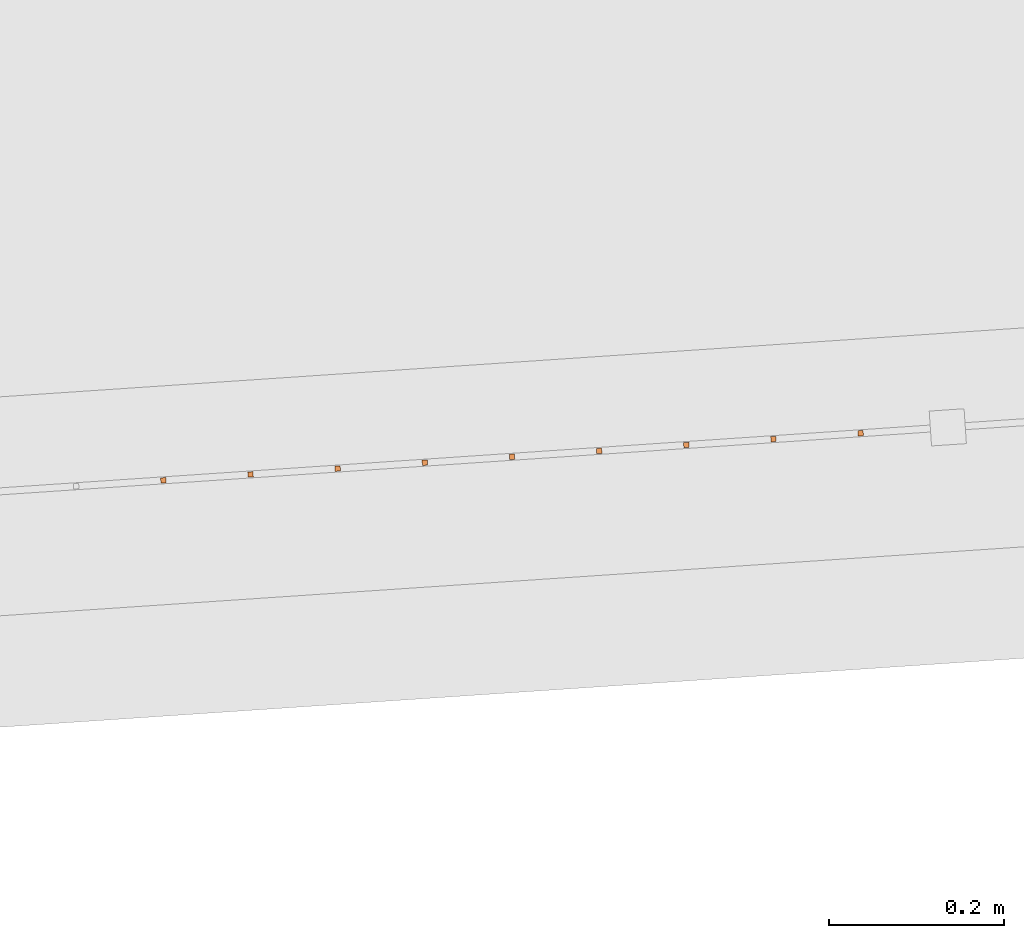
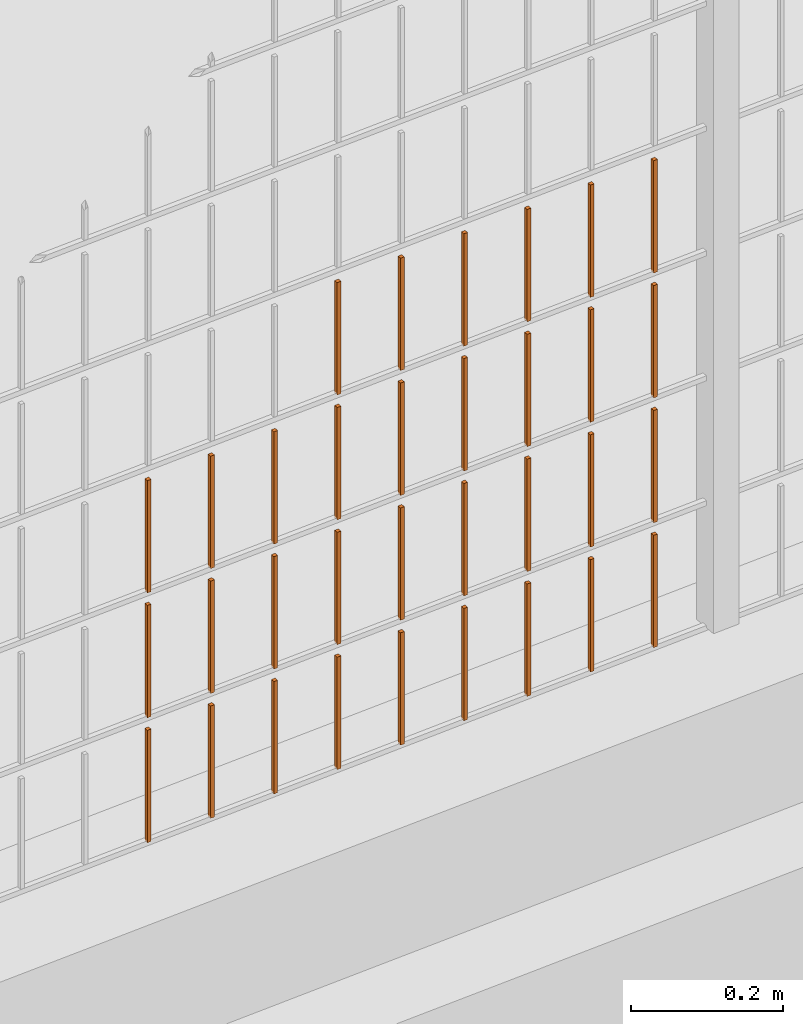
# One storey, part 289 of 1809: 33 proxies, 1 element without a shape of its own.
"""IFC2X3 building model written with IfcOpenShell, lengths in millimetres."""

from ifc_helpers import new_model, entity, si_unit, converted_unit, derived_unit, money_unit, direction, frame, origin_with_axes, place, context, subcontext, project, spatial, faceted_brep, source, transform, mapped, material, type_object, element, aggregate, save


model = new_model("IFC2X3")

# Units and contexts
model_context = context("Model", 3, precision=0.01, world=origin_with_axes(), true_north=direction((0.0, 1.0)))
body_context = subcontext(model_context, "Body", "Model", "MODEL_VIEW")
ifc_project = project(units=[si_unit("LENGTHUNIT", "METRE", prefix="MILLI"), si_unit("AREAUNIT", "SQUARE_METRE"), si_unit("VOLUMEUNIT", "CUBIC_METRE"), converted_unit("PLANEANGLEUNIT", "DEGREE", entity("IfcPlaneAngleMeasure", 0.0174532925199), si_unit("PLANEANGLEUNIT", "RADIAN"), dimensions=[0, 0, 0, 0, 0, 0, 0]), si_unit("SOLIDANGLEUNIT", "STERADIAN"), money_unit("EUR"), converted_unit("TIMEUNIT", "Year", entity("IfcTimeMeasure", 31556926.0), si_unit("TIMEUNIT", "SECOND"), dimensions=[0, 0, 1, 0, 0, 0, 0]), si_unit("MASSUNIT", "GRAM", prefix="KILO"), si_unit("THERMODYNAMICTEMPERATUREUNIT", "DEGREE_CELSIUS"), si_unit("LUMINOUSINTENSITYUNIT", "LUMEN"), si_unit("ENERGYUNIT", "JOULE", prefix="MEGA"), derived_unit("THERMALCONDUCTANCEUNIT", [(si_unit("POWERUNIT", "WATT"), 1), (si_unit("LENGTHUNIT", "METRE"), -1), (si_unit("THERMODYNAMICTEMPERATUREUNIT", "KELVIN"), -1)]), derived_unit("SPECIFICHEATCAPACITYUNIT", [(si_unit("ENERGYUNIT", "JOULE"), 1), (si_unit("MASSUNIT", "GRAM", prefix="KILO"), -1), (si_unit("THERMODYNAMICTEMPERATUREUNIT", "KELVIN"), -1)]), derived_unit("MASSDENSITYUNIT", [(si_unit("MASSUNIT", "GRAM", prefix="KILO"), 1), (si_unit("VOLUMEUNIT", "CUBIC_METRE"), -1)])], contexts=[model_context])

# Site, building, storey
site_placement = place(None, origin_with_axes())
site = spatial("IfcSite", under=ifc_project, at=site_placement, Name="Politse- ja Piirivalveameti ning Päästeameti ühishoone", CompositionType="ELEMENT")
building_placement = place(site_placement, origin_with_axes())
building = spatial("IfcBuilding", under=site, at=building_placement, Name="Politse- ja Piirivalveameti ning Päästeameti ühishoone", CompositionType="ELEMENT")
storey_placement = place(building_placement, origin_with_axes())
storey = spatial("IfcBuildingStorey", under=building, at=storey_placement, Name="Esimene korrus", CompositionType="ELEMENT", Elevation=0.0)

# Proxies
building_element_proxy_type_1 = type_object("IfcBuildingElementProxyType", Name="Railing Type", PredefinedType="NOTDEFINED")
proxy_1_placement = place(storey_placement, frame((89252.001212, -29183.4766571, 203.661247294), z_axis=(0.0, 0.0, 1.0), x_axis=(1.0, 0.0, 0.0)))
proxy_1 = element("IfcBuildingElementProxy", 1, at=proxy_1_placement, inside=storey, type_object=building_element_proxy_type_1, Name="PIIRDEAED")
ifc_material = material(Name="ET-03_Raud")
building_element_proxy_type_2 = type_object("IfcBuildingElementProxyType", Name="IfcBuildingElementProxy", PredefinedType="NOTDEFINED")
shared_shape_1 = source(origin_with_axes(), body_context, "Body", "Brep", [
    faceted_brep([(3.0, 3.0, -0.000752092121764), (-3.0, 3.0, -0.000752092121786), (-3.0, 3.0, 179.99926046), (3.0, 3.0, 179.99926046), (3.0, -3.0, 0.000752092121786), (-3.0, -3.0, 0.000752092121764), (-3.0, -3.0, 180.000764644), (3.0, -3.0, 180.000764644)], [[[0, 1, 2, 3]], [[0, 4, 5, 1]], [[1, 5, 6, 2]], [[3, 2, 6, 7]], [[4, 0, 3, 7]], [[5, 4, 7, 6]]]),
])
proxy_2_placement = place(proxy_1_placement, frame((-47318.8648282, -20493.9855058, 15.3446393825), z_axis=(0.0, 0.0, 1.0), x_axis=(1.0, 0.0, 0.0)))
proxy_2 = element("IfcBuildingElementProxy", 2, at=proxy_2_placement, type_object=building_element_proxy_type_2, material=ifc_material, Name="BALUSTER - 001", context=body_context, shape_type="MappedRepresentation", body=[
    mapped(shared_shape_1, transform((0.0, 0.0, 0.0), x_axis=(-0.0673926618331, 0.997726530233, 0.0), y_axis=(-0.997726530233, -0.0673926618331, 0.0), z_axis=(0.0, 0.0, 1.0))),
])
shared_shape_2 = source(origin_with_axes(), body_context, "Body", "Brep", [
    faceted_brep([(3.0, 3.0, -0.000752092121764), (-3.0, 3.0, -0.000752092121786), (-3.0, 3.0, 179.99926046), (3.0, 3.0, 179.99926046), (3.0, -3.0, 0.000752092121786), (-3.0, -3.0, 0.000752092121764), (-3.0, -3.0, 180.000764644), (3.0, -3.0, 180.000764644)], [[[0, 1, 2, 3]], [[0, 4, 5, 1]], [[1, 5, 6, 2]], [[3, 2, 6, 7]], [[4, 0, 3, 7]], [[5, 4, 7, 6]]]),
])
proxy_3_placement = place(proxy_1_placement, frame((-47418.6374813, -20500.724772, 15.3195696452), z_axis=(0.0, 0.0, 1.0), x_axis=(1.0, 0.0, 0.0)))
proxy_3 = element("IfcBuildingElementProxy", 3, at=proxy_3_placement, type_object=building_element_proxy_type_2, material=ifc_material, Name="BALUSTER - 001", context=body_context, shape_type="MappedRepresentation", body=[
    mapped(shared_shape_2, transform((0.0, 0.0, 0.0), x_axis=(-0.0673926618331, 0.997726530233, 0.0), y_axis=(-0.997726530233, -0.0673926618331, 0.0), z_axis=(0.0, 0.0, 1.0))),
])
shared_shape_3 = source(origin_with_axes(), body_context, "Body", "Brep", [
    faceted_brep([(3.0, 3.0, -0.000752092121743), (-3.0, 3.0, -0.000752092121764), (-3.0, 3.0, 179.99926046), (3.0, 3.0, 179.99926046), (3.0, -3.0, 0.000752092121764), (-3.0, -3.0, 0.000752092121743), (-3.0, -3.0, 180.000764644), (3.0, -3.0, 180.000764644)], [[[0, 1, 2, 3]], [[0, 4, 5, 1]], [[1, 5, 6, 2]], [[3, 2, 6, 7]], [[4, 0, 3, 7]], [[5, 4, 7, 6]]]),
])
proxy_4_placement = place(proxy_1_placement, frame((-47917.5007464, -20534.4211029, 215.194220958), z_axis=(0.0, 0.0, 1.0), x_axis=(1.0, 0.0, 0.0)))
proxy_4 = element("IfcBuildingElementProxy", 4, at=proxy_4_placement, type_object=building_element_proxy_type_2, material=ifc_material, Name="BALUSTER - 001", context=body_context, shape_type="MappedRepresentation", body=[
    mapped(shared_shape_3, transform((0.0, 0.0, 0.0), x_axis=(-0.0673926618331, 0.997726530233, 0.0), y_axis=(-0.997726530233, -0.0673926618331, 0.0), z_axis=(0.0, 0.0, 1.0))),
])
shared_shape_4 = source(origin_with_axes(), body_context, "Body", "Brep", [
    faceted_brep([(3.0, 3.0, -0.000752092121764), (-3.0, 3.0, -0.000752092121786), (-3.0, 3.0, 179.99926046), (3.0, 3.0, 179.99926046), (3.0, -3.0, 0.000752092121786), (-3.0, -3.0, 0.000752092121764), (-3.0, -3.0, 180.000764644), (3.0, -3.0, 180.000764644)], [[[0, 1, 2, 3]], [[0, 4, 5, 1]], [[1, 5, 6, 2]], [[3, 2, 6, 7]], [[4, 0, 3, 7]], [[5, 4, 7, 6]]]),
])
proxy_5_placement = place(proxy_1_placement, frame((-47318.8648282, -20493.9855058, 215.344639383), z_axis=(0.0, 0.0, 1.0), x_axis=(1.0, 0.0, 0.0)))
proxy_5 = element("IfcBuildingElementProxy", 5, at=proxy_5_placement, type_object=building_element_proxy_type_2, material=ifc_material, Name="BALUSTER - 001", context=body_context, shape_type="MappedRepresentation", body=[
    mapped(shared_shape_4, transform((0.0, 0.0, 0.0), x_axis=(-0.0673926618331, 0.997726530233, 0.0), y_axis=(-0.997726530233, -0.0673926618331, 0.0), z_axis=(0.0, 0.0, 1.0))),
])
proxy_6_placement = place(proxy_1_placement, frame((-47318.8648282, -20493.9855058, 415.344639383), z_axis=(0.0, 0.0, 1.0), x_axis=(1.0, 0.0, 0.0)))
proxy_6 = element("IfcBuildingElementProxy", 6, at=proxy_6_placement, type_object=building_element_proxy_type_2, material=ifc_material, Name="BALUSTER - 001", context=body_context, shape_type="MappedRepresentation", body=[
    mapped(shared_shape_4, transform((0.0, 0.0, 0.0), x_axis=(-0.0673926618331, 0.997726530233, 0.0), y_axis=(-0.997726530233, -0.0673926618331, 0.0), z_axis=(0.0, 0.0, 1.0))),
])
shared_shape_5 = source(origin_with_axes(), body_context, "Body", "Brep", [
    faceted_brep([(3.0, 3.0, -0.000752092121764), (-3.0, 3.0, -0.000752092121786), (-3.0, 3.0, 179.99926046), (3.0, 3.0, 179.99926046), (3.0, -3.0, 0.000752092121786), (-3.0, -3.0, 0.000752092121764), (-3.0, -3.0, 180.000764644), (3.0, -3.0, 180.000764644)], [[[0, 1, 2, 3]], [[0, 4, 5, 1]], [[1, 5, 6, 2]], [[3, 2, 6, 7]], [[4, 0, 3, 7]], [[5, 4, 7, 6]]]),
])
proxy_7_placement = place(proxy_1_placement, frame((-47418.6374813, -20500.724772, 415.319569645), z_axis=(0.0, 0.0, 1.0), x_axis=(1.0, 0.0, 0.0)))
proxy_7 = element("IfcBuildingElementProxy", 7, at=proxy_7_placement, type_object=building_element_proxy_type_2, material=ifc_material, Name="BALUSTER - 001", context=body_context, shape_type="MappedRepresentation", body=[
    mapped(shared_shape_5, transform((0.0, 0.0, 0.0), x_axis=(-0.0673926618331, 0.997726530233, 0.0), y_axis=(-0.997726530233, -0.0673926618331, 0.0), z_axis=(0.0, 0.0, 1.0))),
])
shared_shape_6 = source(origin_with_axes(), body_context, "Body", "Brep", [
    faceted_brep([(3.0, 3.0, -0.000752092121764), (-3.0, 3.0, -0.000752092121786), (-3.0, 3.0, 179.99926046), (3.0, 3.0, 179.99926046), (3.0, -3.0, 0.000752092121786), (-3.0, -3.0, 0.000752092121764), (-3.0, -3.0, 180.000764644), (3.0, -3.0, 180.000764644)], [[[0, 1, 2, 3]], [[0, 4, 5, 1]], [[1, 5, 6, 2]], [[3, 2, 6, 7]], [[4, 0, 3, 7]], [[5, 4, 7, 6]]]),
])
proxy_8_placement = place(proxy_1_placement, frame((-47318.8648282, -20493.9855058, 615.344639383), z_axis=(0.0, 0.0, 1.0), x_axis=(1.0, 0.0, 0.0)))
proxy_8 = element("IfcBuildingElementProxy", 8, at=proxy_8_placement, type_object=building_element_proxy_type_2, material=ifc_material, Name="BALUSTER - 001", context=body_context, shape_type="MappedRepresentation", body=[
    mapped(shared_shape_6, transform((0.0, 0.0, 0.0), x_axis=(-0.0673926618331, 0.997726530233, 0.0), y_axis=(-0.997726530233, -0.0673926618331, 0.0), z_axis=(0.0, 0.0, 1.0))),
])
shared_shape_7 = source(origin_with_axes(), body_context, "Body", "Brep", [
    faceted_brep([(3.0, 3.0, -0.000752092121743), (-3.0, 3.0, -0.000752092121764), (-3.0, 3.0, 179.99926046), (3.0, 3.0, 179.99926046), (3.0, -3.0, 0.000752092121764), (-3.0, -3.0, 0.000752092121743), (-3.0, -3.0, 180.000764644), (3.0, -3.0, 180.000764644)], [[[0, 1, 2, 3]], [[0, 4, 5, 1]], [[1, 5, 6, 2]], [[3, 2, 6, 7]], [[4, 0, 3, 7]], [[5, 4, 7, 6]]]),
])
proxy_9_placement = place(proxy_1_placement, frame((-47917.5007464, -20534.4211029, 15.1942209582), z_axis=(0.0, 0.0, 1.0), x_axis=(1.0, 0.0, 0.0)))
proxy_9 = element("IfcBuildingElementProxy", 9, at=proxy_9_placement, type_object=building_element_proxy_type_2, material=ifc_material, Name="BALUSTER - 001", context=body_context, shape_type="MappedRepresentation", body=[
    mapped(shared_shape_7, transform((0.0, 0.0, 0.0), x_axis=(-0.0673926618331, 0.997726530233, 0.0), y_axis=(-0.997726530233, -0.0673926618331, 0.0), z_axis=(0.0, 0.0, 1.0))),
])
shared_shape_8 = source(origin_with_axes(), body_context, "Body", "Brep", [
    faceted_brep([(3.0, 3.0, -0.000752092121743), (-3.0, 3.0, -0.000752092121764), (-3.0, 3.0, 179.99926046), (3.0, 3.0, 179.99926046), (3.0, -3.0, 0.000752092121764), (-3.0, -3.0, 0.000752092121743), (-3.0, -3.0, 180.000764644), (3.0, -3.0, 180.000764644)], [[[0, 1, 2, 3]], [[0, 4, 5, 1]], [[1, 5, 6, 2]], [[3, 2, 6, 7]], [[4, 0, 3, 7]], [[5, 4, 7, 6]]]),
])
proxy_10_placement = place(proxy_1_placement, frame((-47917.5007464, -20534.4211029, 415.194220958), z_axis=(0.0, 0.0, 1.0), x_axis=(1.0, 0.0, 0.0)))
proxy_10 = element("IfcBuildingElementProxy", 10, at=proxy_10_placement, type_object=building_element_proxy_type_2, material=ifc_material, Name="BALUSTER - 001", context=body_context, shape_type="MappedRepresentation", body=[
    mapped(shared_shape_8, transform((0.0, 0.0, 0.0), x_axis=(-0.0673926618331, 0.997726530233, 0.0), y_axis=(-0.997726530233, -0.0673926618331, 0.0), z_axis=(0.0, 0.0, 1.0))),
])
shared_shape_9 = source(origin_with_axes(), body_context, "Body", "Brep", [
    faceted_brep([(3.0, 3.0, -0.000752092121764), (-3.0, 3.0, -0.000752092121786), (-3.0, 3.0, 179.99926046), (3.0, 3.0, 179.99926046), (3.0, -3.0, 0.000752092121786), (-3.0, -3.0, 0.000752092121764), (-3.0, -3.0, 180.000764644), (3.0, -3.0, 180.000764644)], [[[0, 1, 2, 3]], [[0, 4, 5, 1]], [[1, 5, 6, 2]], [[3, 2, 6, 7]], [[4, 0, 3, 7]], [[5, 4, 7, 6]]]),
])
proxy_11_placement = place(proxy_1_placement, frame((-47418.6374813, -20500.724772, 215.319569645), z_axis=(0.0, 0.0, 1.0), x_axis=(1.0, 0.0, 0.0)))
proxy_11 = element("IfcBuildingElementProxy", 11, at=proxy_11_placement, type_object=building_element_proxy_type_2, material=ifc_material, Name="BALUSTER - 001", context=body_context, shape_type="MappedRepresentation", body=[
    mapped(shared_shape_9, transform((0.0, 0.0, 0.0), x_axis=(-0.0673926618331, 0.997726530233, 0.0), y_axis=(-0.997726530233, -0.0673926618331, 0.0), z_axis=(0.0, 0.0, 1.0))),
])
shared_shape_10 = source(origin_with_axes(), body_context, "Body", "Brep", [
    faceted_brep([(3.0, 3.0, -0.000752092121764), (-3.0, 3.0, -0.000752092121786), (-3.0, 3.0, 179.99926046), (3.0, 3.0, 179.99926046), (3.0, -3.0, 0.000752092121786), (-3.0, -3.0, 0.000752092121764), (-3.0, -3.0, 180.000764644), (3.0, -3.0, 180.000764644)], [[[0, 1, 2, 3]], [[0, 4, 5, 1]], [[1, 5, 6, 2]], [[3, 2, 6, 7]], [[4, 0, 3, 7]], [[5, 4, 7, 6]]]),
])
proxy_12_placement = place(proxy_1_placement, frame((-47418.6374813, -20500.724772, 615.319569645), z_axis=(0.0, 0.0, 1.0), x_axis=(1.0, 0.0, 0.0)))
proxy_12 = element("IfcBuildingElementProxy", 12, at=proxy_12_placement, type_object=building_element_proxy_type_2, material=ifc_material, Name="BALUSTER - 001", context=body_context, shape_type="MappedRepresentation", body=[
    mapped(shared_shape_10, transform((0.0, 0.0, 0.0), x_axis=(-0.0673926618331, 0.997726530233, 0.0), y_axis=(-0.997726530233, -0.0673926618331, 0.0), z_axis=(0.0, 0.0, 1.0))),
])
shared_shape_11 = source(origin_with_axes(), body_context, "Body", "Brep", [
    faceted_brep([(3.0, 3.0, -0.000752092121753), (-3.0, 3.0, -0.000752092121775), (-3.0, 3.0, 179.99926046), (3.0, 3.0, 179.99926046), (3.0, -3.0, 0.000752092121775), (-3.0, -3.0, 0.000752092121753), (-3.0, -3.0, 180.000764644), (3.0, -3.0, 180.000764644)], [[[0, 1, 2, 3]], [[0, 4, 5, 1]], [[1, 5, 6, 2]], [[3, 2, 6, 7]], [[4, 0, 3, 7]], [[5, 4, 7, 6]]]),
])
proxy_13_placement = place(proxy_1_placement, frame((-48117.0460524, -20547.8996353, 15.1440814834), z_axis=(0.0, 0.0, 1.0), x_axis=(1.0, 0.0, 0.0)))
proxy_13 = element("IfcBuildingElementProxy", 13, at=proxy_13_placement, type_object=building_element_proxy_type_2, material=ifc_material, Name="BALUSTER - 001", context=body_context, shape_type="MappedRepresentation", body=[
    mapped(shared_shape_11, transform((0.0, 0.0, 0.0), x_axis=(-0.0673926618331, 0.997726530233, 0.0), y_axis=(-0.997726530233, -0.0673926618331, 0.0), z_axis=(0.0, 0.0, 1.0))),
])
shared_shape_12 = source(origin_with_axes(), body_context, "Body", "Brep", [
    faceted_brep([(3.0, 3.0, -0.000752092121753), (-3.0, 3.0, -0.000752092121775), (-3.0, 3.0, 179.99926046), (3.0, 3.0, 179.99926046), (3.0, -3.0, 0.000752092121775), (-3.0, -3.0, 0.000752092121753), (-3.0, -3.0, 180.000764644), (3.0, -3.0, 180.000764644)], [[[0, 1, 2, 3]], [[0, 4, 5, 1]], [[1, 5, 6, 2]], [[3, 2, 6, 7]], [[4, 0, 3, 7]], [[5, 4, 7, 6]]]),
])
proxy_14_placement = place(proxy_1_placement, frame((-48117.0460524, -20547.8996353, 215.144081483), z_axis=(0.0, 0.0, 1.0), x_axis=(1.0, 0.0, 0.0)))
proxy_14 = element("IfcBuildingElementProxy", 14, at=proxy_14_placement, type_object=building_element_proxy_type_2, material=ifc_material, Name="BALUSTER - 001", context=body_context, shape_type="MappedRepresentation", body=[
    mapped(shared_shape_12, transform((0.0, 0.0, 0.0), x_axis=(-0.0673926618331, 0.997726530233, 0.0), y_axis=(-0.997726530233, -0.0673926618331, 0.0), z_axis=(0.0, 0.0, 1.0))),
])
shared_shape_13 = source(origin_with_axes(), body_context, "Body", "Brep", [
    faceted_brep([(3.0, 3.0, -0.000752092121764), (-3.0, 3.0, -0.000752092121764), (-3.0, 3.0, 179.99926046), (3.0, 3.0, 179.99926046), (3.0, -3.0, 0.000752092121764), (-3.0, -3.0, 0.000752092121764), (-3.0, -3.0, 180.000764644), (3.0, -3.0, 180.000764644)], [[[0, 1, 2, 3]], [[0, 4, 5, 1]], [[1, 5, 6, 2]], [[3, 2, 6, 7]], [[4, 0, 3, 7]], [[5, 4, 7, 6]]]),
])
proxy_15_placement = place(proxy_1_placement, frame((-47717.9554403, -20520.9425705, 415.244360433), z_axis=(0.0, 0.0, 1.0), x_axis=(1.0, 0.0, 0.0)))
proxy_15 = element("IfcBuildingElementProxy", 15, at=proxy_15_placement, type_object=building_element_proxy_type_2, material=ifc_material, Name="BALUSTER - 001", context=body_context, shape_type="MappedRepresentation", body=[
    mapped(shared_shape_13, transform((0.0, 0.0, 0.0), x_axis=(-0.0673926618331, 0.997726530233, 0.0), y_axis=(-0.997726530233, -0.0673926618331, 0.0), z_axis=(0.0, 0.0, 1.0))),
])
shared_shape_14 = source(origin_with_axes(), body_context, "Body", "Brep", [
    faceted_brep([(3.0, 3.0, -0.000752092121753), (-3.0, 3.0, -0.000752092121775), (-3.0, 3.0, 179.99926046), (3.0, 3.0, 179.99926046), (3.0, -3.0, 0.000752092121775), (-3.0, -3.0, 0.000752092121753), (-3.0, -3.0, 180.000764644), (3.0, -3.0, 180.000764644)], [[[0, 1, 2, 3]], [[0, 4, 5, 1]], [[1, 5, 6, 2]], [[3, 2, 6, 7]], [[4, 0, 3, 7]], [[5, 4, 7, 6]]]),
])
proxy_16_placement = place(proxy_1_placement, frame((-48117.0460524, -20547.8996353, 415.144081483), z_axis=(0.0, 0.0, 1.0), x_axis=(1.0, 0.0, 0.0)))
proxy_16 = element("IfcBuildingElementProxy", 16, at=proxy_16_placement, type_object=building_element_proxy_type_2, material=ifc_material, Name="BALUSTER - 001", context=body_context, shape_type="MappedRepresentation", body=[
    mapped(shared_shape_14, transform((0.0, 0.0, 0.0), x_axis=(-0.0673926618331, 0.997726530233, 0.0), y_axis=(-0.997726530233, -0.0673926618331, 0.0), z_axis=(0.0, 0.0, 1.0))),
])
shared_shape_15 = source(origin_with_axes(), body_context, "Body", "Brep", [
    faceted_brep([(3.0, 3.0, -0.000752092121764), (-3.0, 3.0, -0.000752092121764), (-3.0, 3.0, 179.99926046), (3.0, 3.0, 179.99926046), (3.0, -3.0, 0.000752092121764), (-3.0, -3.0, 0.000752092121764), (-3.0, -3.0, 180.000764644), (3.0, -3.0, 180.000764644)], [[[0, 1, 2, 3]], [[0, 4, 5, 1]], [[1, 5, 6, 2]], [[3, 2, 6, 7]], [[4, 0, 3, 7]], [[5, 4, 7, 6]]]),
])
proxy_17_placement = place(proxy_1_placement, frame((-47817.7280933, -20527.6818367, 415.219290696), z_axis=(0.0, 0.0, 1.0), x_axis=(1.0, 0.0, 0.0)))
proxy_17 = element("IfcBuildingElementProxy", 17, at=proxy_17_placement, type_object=building_element_proxy_type_2, material=ifc_material, Name="BALUSTER - 001", context=body_context, shape_type="MappedRepresentation", body=[
    mapped(shared_shape_15, transform((0.0, 0.0, 0.0), x_axis=(-0.0673926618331, 0.997726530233, 0.0), y_axis=(-0.997726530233, -0.0673926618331, 0.0), z_axis=(0.0, 0.0, 1.0))),
])
shared_shape_16 = source(origin_with_axes(), body_context, "Body", "Brep", [
    faceted_brep([(3.0, 3.0, -0.000752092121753), (-3.0, 3.0, -0.000752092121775), (-3.0, 3.0, 179.99926046), (3.0, 3.0, 179.99926046), (3.0, -3.0, 0.000752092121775), (-3.0, -3.0, 0.000752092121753), (-3.0, -3.0, 180.000764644), (3.0, -3.0, 180.000764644)], [[[0, 1, 2, 3]], [[0, 4, 5, 1]], [[1, 5, 6, 2]], [[3, 2, 6, 7]], [[4, 0, 3, 7]], [[5, 4, 7, 6]]]),
])
proxy_18_placement = place(proxy_1_placement, frame((-48017.2733994, -20541.1603691, 215.169151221), z_axis=(0.0, 0.0, 1.0), x_axis=(1.0, 0.0, 0.0)))
proxy_18 = element("IfcBuildingElementProxy", 18, at=proxy_18_placement, type_object=building_element_proxy_type_2, material=ifc_material, Name="BALUSTER - 001", context=body_context, shape_type="MappedRepresentation", body=[
    mapped(shared_shape_16, transform((0.0, 0.0, 0.0), x_axis=(-0.0673926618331, 0.997726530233, 0.0), y_axis=(-0.997726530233, -0.0673926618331, 0.0), z_axis=(0.0, 0.0, 1.0))),
])
proxy_19_placement = place(proxy_1_placement, frame((-48017.2733994, -20541.1603691, 415.169151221), z_axis=(0.0, 0.0, 1.0), x_axis=(1.0, 0.0, 0.0)))
proxy_19 = element("IfcBuildingElementProxy", 19, at=proxy_19_placement, type_object=building_element_proxy_type_2, material=ifc_material, Name="BALUSTER - 001", context=body_context, shape_type="MappedRepresentation", body=[
    mapped(shared_shape_16, transform((0.0, 0.0, 0.0), x_axis=(-0.0673926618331, 0.997726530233, 0.0), y_axis=(-0.997726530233, -0.0673926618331, 0.0), z_axis=(0.0, 0.0, 1.0))),
])
shared_shape_17 = source(origin_with_axes(), body_context, "Body", "Brep", [
    faceted_brep([(3.0, 3.0, -0.000752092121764), (-3.0, 3.0, -0.000752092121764), (-3.0, 3.0, 179.99926046), (3.0, 3.0, 179.99926046), (3.0, -3.0, 0.000752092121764), (-3.0, -3.0, 0.000752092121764), (-3.0, -3.0, 180.000764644), (3.0, -3.0, 180.000764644)], [[[0, 1, 2, 3]], [[0, 4, 5, 1]], [[1, 5, 6, 2]], [[3, 2, 6, 7]], [[4, 0, 3, 7]], [[5, 4, 7, 6]]]),
])
proxy_20_placement = place(proxy_1_placement, frame((-47717.9554403, -20520.9425705, 615.244360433), z_axis=(0.0, 0.0, 1.0), x_axis=(1.0, 0.0, 0.0)))
proxy_20 = element("IfcBuildingElementProxy", 20, at=proxy_20_placement, type_object=building_element_proxy_type_2, material=ifc_material, Name="BALUSTER - 001", context=body_context, shape_type="MappedRepresentation", body=[
    mapped(shared_shape_17, transform((0.0, 0.0, 0.0), x_axis=(-0.0673926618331, 0.997726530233, 0.0), y_axis=(-0.997726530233, -0.0673926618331, 0.0), z_axis=(0.0, 0.0, 1.0))),
])
shared_shape_18 = source(origin_with_axes(), body_context, "Body", "Brep", [
    faceted_brep([(3.0, 3.0, -0.000752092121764), (-3.0, 3.0, -0.000752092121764), (-3.0, 3.0, 179.99926046), (3.0, 3.0, 179.99926046), (3.0, -3.0, 0.000752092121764), (-3.0, -3.0, 0.000752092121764), (-3.0, -3.0, 180.000764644), (3.0, -3.0, 180.000764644)], [[[0, 1, 2, 3]], [[0, 4, 5, 1]], [[1, 5, 6, 2]], [[3, 2, 6, 7]], [[4, 0, 3, 7]], [[5, 4, 7, 6]]]),
])
proxy_21_placement = place(proxy_1_placement, frame((-47817.7280933, -20527.6818367, 615.219290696), z_axis=(0.0, 0.0, 1.0), x_axis=(1.0, 0.0, 0.0)))
proxy_21 = element("IfcBuildingElementProxy", 21, at=proxy_21_placement, type_object=building_element_proxy_type_2, material=ifc_material, Name="BALUSTER - 001", context=body_context, shape_type="MappedRepresentation", body=[
    mapped(shared_shape_18, transform((0.0, 0.0, 0.0), x_axis=(-0.0673926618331, 0.997726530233, 0.0), y_axis=(-0.997726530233, -0.0673926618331, 0.0), z_axis=(0.0, 0.0, 1.0))),
])
shared_shape_19 = source(origin_with_axes(), body_context, "Body", "Brep", [
    faceted_brep([(3.0, 3.0, -0.000752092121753), (-3.0, 3.0, -0.000752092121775), (-3.0, 3.0, 179.99926046), (3.0, 3.0, 179.99926046), (3.0, -3.0, 0.000752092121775), (-3.0, -3.0, 0.000752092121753), (-3.0, -3.0, 180.000764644), (3.0, -3.0, 180.000764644)], [[[0, 1, 2, 3]], [[0, 4, 5, 1]], [[1, 5, 6, 2]], [[3, 2, 6, 7]], [[4, 0, 3, 7]], [[5, 4, 7, 6]]]),
])
proxy_22_placement = place(proxy_1_placement, frame((-47518.4101343, -20507.4640382, 15.2944999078), z_axis=(0.0, 0.0, 1.0), x_axis=(1.0, 0.0, 0.0)))
proxy_22 = element("IfcBuildingElementProxy", 22, at=proxy_22_placement, type_object=building_element_proxy_type_2, material=ifc_material, Name="BALUSTER - 001", context=body_context, shape_type="MappedRepresentation", body=[
    mapped(shared_shape_19, transform((0.0, 0.0, 0.0), x_axis=(-0.0673926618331, 0.997726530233, 0.0), y_axis=(-0.997726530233, -0.0673926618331, 0.0), z_axis=(0.0, 0.0, 1.0))),
])
shared_shape_20 = source(origin_with_axes(), body_context, "Body", "Brep", [
    faceted_brep([(3.0, 3.0, -0.000752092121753), (-3.0, 3.0, -0.000752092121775), (-3.0, 3.0, 179.99926046), (3.0, 3.0, 179.99926046), (3.0, -3.0, 0.000752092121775), (-3.0, -3.0, 0.000752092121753), (-3.0, -3.0, 180.000764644), (3.0, -3.0, 180.000764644)], [[[0, 1, 2, 3]], [[0, 4, 5, 1]], [[1, 5, 6, 2]], [[3, 2, 6, 7]], [[4, 0, 3, 7]], [[5, 4, 7, 6]]]),
])
proxy_23_placement = place(proxy_1_placement, frame((-48017.2733994, -20541.1603691, 15.1691512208), z_axis=(0.0, 0.0, 1.0), x_axis=(1.0, 0.0, 0.0)))
proxy_23 = element("IfcBuildingElementProxy", 23, at=proxy_23_placement, type_object=building_element_proxy_type_2, material=ifc_material, Name="BALUSTER - 001", context=body_context, shape_type="MappedRepresentation", body=[
    mapped(shared_shape_20, transform((0.0, 0.0, 0.0), x_axis=(-0.0673926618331, 0.997726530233, 0.0), y_axis=(-0.997726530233, -0.0673926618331, 0.0), z_axis=(0.0, 0.0, 1.0))),
])
shared_shape_21 = source(origin_with_axes(), body_context, "Body", "Brep", [
    faceted_brep([(3.0, 3.0, -0.000752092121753), (-3.0, 3.0, -0.000752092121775), (-3.0, 3.0, 179.99926046), (3.0, 3.0, 179.99926046), (3.0, -3.0, 0.000752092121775), (-3.0, -3.0, 0.000752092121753), (-3.0, -3.0, 180.000764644), (3.0, -3.0, 180.000764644)], [[[0, 1, 2, 3]], [[0, 4, 5, 1]], [[1, 5, 6, 2]], [[3, 2, 6, 7]], [[4, 0, 3, 7]], [[5, 4, 7, 6]]]),
])
proxy_24_placement = place(proxy_1_placement, frame((-47618.1827873, -20514.2033043, 415.26943017), z_axis=(0.0, 0.0, 1.0), x_axis=(1.0, 0.0, 0.0)))
proxy_24 = element("IfcBuildingElementProxy", 24, at=proxy_24_placement, type_object=building_element_proxy_type_2, material=ifc_material, Name="BALUSTER - 001", context=body_context, shape_type="MappedRepresentation", body=[
    mapped(shared_shape_21, transform((0.0, 0.0, 0.0), x_axis=(-0.0673926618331, 0.997726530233, 0.0), y_axis=(-0.997726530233, -0.0673926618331, 0.0), z_axis=(0.0, 0.0, 1.0))),
])
shared_shape_22 = source(origin_with_axes(), body_context, "Body", "Brep", [
    faceted_brep([(3.0, 3.0, -0.000752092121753), (-3.0, 3.0, -0.000752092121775), (-3.0, 3.0, 179.99926046), (3.0, 3.0, 179.99926046), (3.0, -3.0, 0.000752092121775), (-3.0, -3.0, 0.000752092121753), (-3.0, -3.0, 180.000764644), (3.0, -3.0, 180.000764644)], [[[0, 1, 2, 3]], [[0, 4, 5, 1]], [[1, 5, 6, 2]], [[3, 2, 6, 7]], [[4, 0, 3, 7]], [[5, 4, 7, 6]]]),
])
proxy_25_placement = place(proxy_1_placement, frame((-47618.1827873, -20514.2033043, 15.2694301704), z_axis=(0.0, 0.0, 1.0), x_axis=(1.0, 0.0, 0.0)))
proxy_25 = element("IfcBuildingElementProxy", 25, at=proxy_25_placement, type_object=building_element_proxy_type_2, material=ifc_material, Name="BALUSTER - 001", context=body_context, shape_type="MappedRepresentation", body=[
    mapped(shared_shape_22, transform((0.0, 0.0, 0.0), x_axis=(-0.0673926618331, 0.997726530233, 0.0), y_axis=(-0.997726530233, -0.0673926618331, 0.0), z_axis=(0.0, 0.0, 1.0))),
])
shared_shape_23 = source(origin_with_axes(), body_context, "Body", "Brep", [
    faceted_brep([(3.0, 3.0, -0.000752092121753), (-3.0, 3.0, -0.000752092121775), (-3.0, 3.0, 179.99926046), (3.0, 3.0, 179.99926046), (3.0, -3.0, 0.000752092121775), (-3.0, -3.0, 0.000752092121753), (-3.0, -3.0, 180.000764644), (3.0, -3.0, 180.000764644)], [[[0, 1, 2, 3]], [[0, 4, 5, 1]], [[1, 5, 6, 2]], [[3, 2, 6, 7]], [[4, 0, 3, 7]], [[5, 4, 7, 6]]]),
])
proxy_26_placement = place(proxy_1_placement, frame((-47518.4101343, -20507.4640382, 215.294499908), z_axis=(0.0, 0.0, 1.0), x_axis=(1.0, 0.0, 0.0)))
proxy_26 = element("IfcBuildingElementProxy", 26, at=proxy_26_placement, type_object=building_element_proxy_type_2, material=ifc_material, Name="BALUSTER - 001", context=body_context, shape_type="MappedRepresentation", body=[
    mapped(shared_shape_23, transform((0.0, 0.0, 0.0), x_axis=(-0.0673926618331, 0.997726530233, 0.0), y_axis=(-0.997726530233, -0.0673926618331, 0.0), z_axis=(0.0, 0.0, 1.0))),
])
proxy_27_placement = place(proxy_1_placement, frame((-47518.4101343, -20507.4640382, 415.294499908), z_axis=(0.0, 0.0, 1.0), x_axis=(1.0, 0.0, 0.0)))
proxy_27 = element("IfcBuildingElementProxy", 27, at=proxy_27_placement, type_object=building_element_proxy_type_2, material=ifc_material, Name="BALUSTER - 001", context=body_context, shape_type="MappedRepresentation", body=[
    mapped(shared_shape_23, transform((0.0, 0.0, 0.0), x_axis=(-0.0673926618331, 0.997726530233, 0.0), y_axis=(-0.997726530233, -0.0673926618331, 0.0), z_axis=(0.0, 0.0, 1.0))),
])
proxy_28_placement = place(proxy_1_placement, frame((-47518.4101343, -20507.4640382, 615.294499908), z_axis=(0.0, 0.0, 1.0), x_axis=(1.0, 0.0, 0.0)))
proxy_28 = element("IfcBuildingElementProxy", 28, at=proxy_28_placement, type_object=building_element_proxy_type_2, material=ifc_material, Name="BALUSTER - 001", context=body_context, shape_type="MappedRepresentation", body=[
    mapped(shared_shape_23, transform((0.0, 0.0, 0.0), x_axis=(-0.0673926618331, 0.997726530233, 0.0), y_axis=(-0.997726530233, -0.0673926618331, 0.0), z_axis=(0.0, 0.0, 1.0))),
])
proxy_29_placement = place(proxy_1_placement, frame((-47618.1827873, -20514.2033043, 615.26943017), z_axis=(0.0, 0.0, 1.0), x_axis=(1.0, 0.0, 0.0)))
proxy_29 = element("IfcBuildingElementProxy", 29, at=proxy_29_placement, type_object=building_element_proxy_type_2, material=ifc_material, Name="BALUSTER - 001", context=body_context, shape_type="MappedRepresentation", body=[
    mapped(shared_shape_23, transform((0.0, 0.0, 0.0), x_axis=(-0.0673926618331, 0.997726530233, 0.0), y_axis=(-0.997726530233, -0.0673926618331, 0.0), z_axis=(0.0, 0.0, 1.0))),
])
shared_shape_24 = source(origin_with_axes(), body_context, "Body", "Brep", [
    faceted_brep([(3.0, 3.0, -0.000752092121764), (-3.0, 3.0, -0.000752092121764), (-3.0, 3.0, 179.99926046), (3.0, 3.0, 179.99926046), (3.0, -3.0, 0.000752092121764), (-3.0, -3.0, 0.000752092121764), (-3.0, -3.0, 180.000764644), (3.0, -3.0, 180.000764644)], [[[0, 1, 2, 3]], [[0, 4, 5, 1]], [[1, 5, 6, 2]], [[3, 2, 6, 7]], [[4, 0, 3, 7]], [[5, 4, 7, 6]]]),
])
proxy_30_placement = place(proxy_1_placement, frame((-47817.7280933, -20527.6818367, 15.2192906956), z_axis=(0.0, 0.0, 1.0), x_axis=(1.0, 0.0, 0.0)))
proxy_30 = element("IfcBuildingElementProxy", 30, at=proxy_30_placement, type_object=building_element_proxy_type_2, material=ifc_material, Name="BALUSTER - 001", context=body_context, shape_type="MappedRepresentation", body=[
    mapped(shared_shape_24, transform((0.0, 0.0, 0.0), x_axis=(-0.0673926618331, 0.997726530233, 0.0), y_axis=(-0.997726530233, -0.0673926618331, 0.0), z_axis=(0.0, 0.0, 1.0))),
])
proxy_31_placement = place(proxy_1_placement, frame((-47817.7280933, -20527.6818367, 215.219290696), z_axis=(0.0, 0.0, 1.0), x_axis=(1.0, 0.0, 0.0)))
proxy_31 = element("IfcBuildingElementProxy", 31, at=proxy_31_placement, type_object=building_element_proxy_type_2, material=ifc_material, Name="BALUSTER - 001", context=body_context, shape_type="MappedRepresentation", body=[
    mapped(shared_shape_24, transform((0.0, 0.0, 0.0), x_axis=(-0.0673926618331, 0.997726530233, 0.0), y_axis=(-0.997726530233, -0.0673926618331, 0.0), z_axis=(0.0, 0.0, 1.0))),
])
shared_shape_25 = source(origin_with_axes(), body_context, "Body", "Brep", [
    faceted_brep([(3.0, 3.0, -0.000752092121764), (-3.0, 3.0, -0.000752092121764), (-3.0, 3.0, 179.99926046), (3.0, 3.0, 179.99926046), (3.0, -3.0, 0.000752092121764), (-3.0, -3.0, 0.000752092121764), (-3.0, -3.0, 180.000764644), (3.0, -3.0, 180.000764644)], [[[0, 1, 2, 3]], [[0, 4, 5, 1]], [[1, 5, 6, 2]], [[3, 2, 6, 7]], [[4, 0, 3, 7]], [[5, 4, 7, 6]]]),
])
proxy_32_placement = place(proxy_1_placement, frame((-47717.9554403, -20520.9425705, 15.244360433), z_axis=(0.0, 0.0, 1.0), x_axis=(1.0, 0.0, 0.0)))
proxy_32 = element("IfcBuildingElementProxy", 32, at=proxy_32_placement, type_object=building_element_proxy_type_2, material=ifc_material, Name="BALUSTER - 001", context=body_context, shape_type="MappedRepresentation", body=[
    mapped(shared_shape_25, transform((0.0, 0.0, 0.0), x_axis=(-0.0673926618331, 0.997726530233, 0.0), y_axis=(-0.997726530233, -0.0673926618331, 0.0), z_axis=(0.0, 0.0, 1.0))),
])
shared_shape_26 = source(origin_with_axes(), body_context, "Body", "Brep", [
    faceted_brep([(3.0, 3.0, -0.000752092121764), (-3.0, 3.0, -0.000752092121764), (-3.0, 3.0, 179.99926046), (3.0, 3.0, 179.99926046), (3.0, -3.0, 0.000752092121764), (-3.0, -3.0, 0.000752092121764), (-3.0, -3.0, 180.000764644), (3.0, -3.0, 180.000764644)], [[[0, 1, 2, 3]], [[0, 4, 5, 1]], [[1, 5, 6, 2]], [[3, 2, 6, 7]], [[4, 0, 3, 7]], [[5, 4, 7, 6]]]),
])
proxy_33_placement = place(proxy_1_placement, frame((-47717.9554403, -20520.9425705, 215.244360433), z_axis=(0.0, 0.0, 1.0), x_axis=(1.0, 0.0, 0.0)))
proxy_33 = element("IfcBuildingElementProxy", 33, at=proxy_33_placement, type_object=building_element_proxy_type_2, material=ifc_material, Name="BALUSTER - 001", context=body_context, shape_type="MappedRepresentation", body=[
    mapped(shared_shape_26, transform((0.0, 0.0, 0.0), x_axis=(-0.0673926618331, 0.997726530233, 0.0), y_axis=(-0.997726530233, -0.0673926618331, 0.0), z_axis=(0.0, 0.0, 1.0))),
])
shared_shape_27 = source(origin_with_axes(), body_context, "Body", "Brep", [
    faceted_brep([(3.0, 3.0, -0.000752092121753), (-3.0, 3.0, -0.000752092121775), (-3.0, 3.0, 179.99926046), (3.0, 3.0, 179.99926046), (3.0, -3.0, 0.000752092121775), (-3.0, -3.0, 0.000752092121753), (-3.0, -3.0, 180.000764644), (3.0, -3.0, 180.000764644)], [[[0, 1, 2, 3]], [[0, 4, 5, 1]], [[1, 5, 6, 2]], [[3, 2, 6, 7]], [[4, 0, 3, 7]], [[5, 4, 7, 6]]]),
])
proxy_34_placement = place(proxy_1_placement, frame((-47618.1827873, -20514.2033043, 215.26943017), z_axis=(0.0, 0.0, 1.0), x_axis=(1.0, 0.0, 0.0)))
proxy_34 = element("IfcBuildingElementProxy", 34, at=proxy_34_placement, type_object=building_element_proxy_type_2, material=ifc_material, Name="BALUSTER - 001", context=body_context, shape_type="MappedRepresentation", body=[
    mapped(shared_shape_27, transform((0.0, 0.0, 0.0), x_axis=(-0.0673926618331, 0.997726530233, 0.0), y_axis=(-0.997726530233, -0.0673926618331, 0.0), z_axis=(0.0, 0.0, 1.0))),
])
aggregate(proxy_1, [proxy_2, proxy_3, proxy_22, proxy_25, proxy_32, proxy_30, proxy_9, proxy_23, proxy_13, proxy_5, proxy_11, proxy_26, proxy_34, proxy_33, proxy_31, proxy_4, proxy_18, proxy_14, proxy_6, proxy_7, proxy_27, proxy_24, proxy_15, proxy_17, proxy_10, proxy_19, proxy_16, proxy_8, proxy_12, proxy_28, proxy_29, proxy_20, proxy_21])

save(model, "model.ifc")
